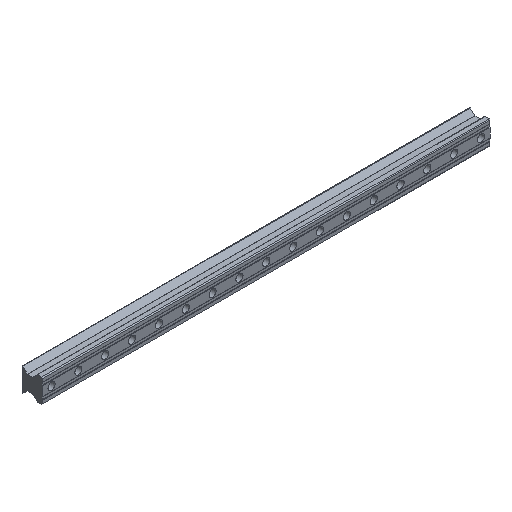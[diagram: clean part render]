
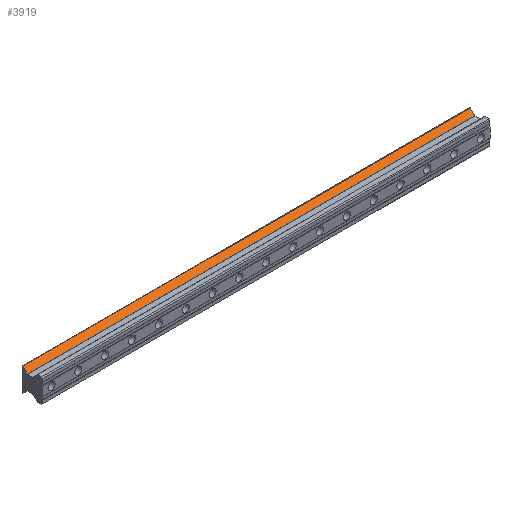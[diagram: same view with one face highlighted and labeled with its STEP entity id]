
A CAD part, isometric view. The second image highlights one B-rep face of the part: STEP entity #3919.
In plain terms, the highlighted planar face has unit normal (0, -0.707, 0.707) as drawn and (0.707, -0.707, 0) by its records, which use the part's own axes.
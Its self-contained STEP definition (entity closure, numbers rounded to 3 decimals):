
#309=PLANE('',#4210);
#516=FACE_OUTER_BOUND('',#782,.T.);
#782=EDGE_LOOP('',(#3616,#3617,#3618,#3619));
#1082=LINE('',#7693,#1438);
#1105=LINE('',#7751,#1461);
#1138=LINE('',#7830,#1494);
#1139=LINE('',#7832,#1495);
#1438=VECTOR('',#4905,10.);
#1461=VECTOR('',#4946,14.435);
#1494=VECTOR('',#5033,150.);
#1495=VECTOR('',#5036,150.);
#1943=VERTEX_POINT('',#7690);
#1944=VERTEX_POINT('',#7692);
#1969=VERTEX_POINT('',#7748);
#1970=VERTEX_POINT('',#7750);
#2467=EDGE_CURVE('',#1943,#1944,#1082,.T.);
#2496=EDGE_CURVE('',#1970,#1969,#1105,.T.);
#2536=EDGE_CURVE('',#1943,#1970,#1138,.T.);
#2537=EDGE_CURVE('',#1944,#1969,#1139,.T.);
#3616=ORIENTED_EDGE('',*,*,#2496,.T.);
#3617=ORIENTED_EDGE('',*,*,#2537,.F.);
#3618=ORIENTED_EDGE('',*,*,#2467,.F.);
#3619=ORIENTED_EDGE('',*,*,#2536,.T.);
#3919=ADVANCED_FACE('',(#516),#309,.T.);
#4210=AXIS2_PLACEMENT_3D('',#7831,#5034,#5035);
#4905=DIRECTION('',(-0.707,-0.707,0.));
#4946=DIRECTION('',(-0.707,-0.707,0.));
#5033=DIRECTION('',(0.,0.,1.));
#5034=DIRECTION('center_axis',(0.707,-0.707,0.));
#5035=DIRECTION('ref_axis',(0.,0.,-1.));
#5036=DIRECTION('',(0.,0.,1.));
#7690=CARTESIAN_POINT('',(26.354,44.162,-850.));
#7692=CARTESIAN_POINT('',(16.146,33.955,-850.));
#7693=CARTESIAN_POINT('',(16.146,33.955,-850.));
#7748=CARTESIAN_POINT('',(16.146,33.955,150.));
#7750=CARTESIAN_POINT('',(26.354,44.162,150.));
#7751=CARTESIAN_POINT('',(26.354,44.162,150.));
#7830=CARTESIAN_POINT('',(26.354,44.162,0.));
#7831=CARTESIAN_POINT('Origin',(26.354,44.162,0.));
#7832=CARTESIAN_POINT('',(16.146,33.955,0.));
